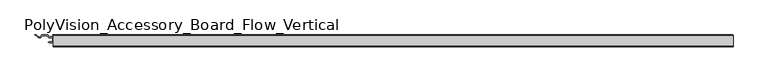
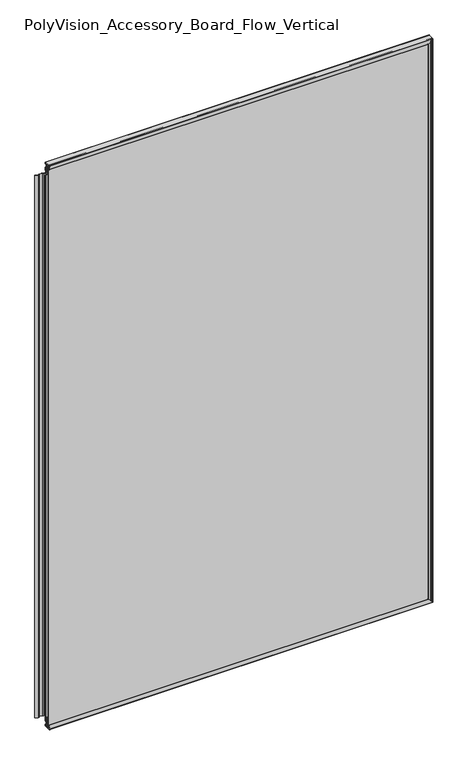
"""IFC4 building model written with IfcOpenShell, lengths in millimetres: furniture geometry, PolyVision_Accessory_Board_Flow_Vertical : 47W x 72H (1185 W x 1830 H)."""

from ifc_helpers import new_model, si_unit, point, frame, frame_2d, origin, place, context, project, spatial, polyline, circle_curve, ellipse_curve, trimmed, segment, composite_curve, outline, extrude, source, transform, mapped, element, save
from ifc_brep_helpers import plane_surface, cylinder_surface, revolved_surface, advanced_brep


def polyvision_accessory_board_flow_vertical_d371d4c1(model_context):
    return source(origin(), model_context, "Body", "SolidModel", [
        extrude(outline(polyline([(-2.1773004, 1827.6977202), (-2.1773004, 1826.8340763), (11.9065147, 1826.8340763), (11.9065147, 1824.149308), (7.6861579, 1824.149308), (7.6861579, 1817.1597246), (11.9065147, 1814.0934559), (11.9065147, 1804.1500962), (8.0075268, 1801.3173157), (7.7813476, 1800.4732034), (9.5131033, 1798.0), (7.5873908, 1798.0), (6.1707503, 1800.0231723), (6.1707503, 1801.7730492), (10.4011044, 1804.8465813), (10.4011044, 1813.2889188), (6.1707503, 1816.3624509), (6.1707503, 1823.2252503), (5.2024973, 1823.2252503), (4.2308366, 1824.3425727), (3.1736041, 1823.2853402), (2.1319224, 1824.3270218), (1.2210895, 1823.2415334), (0.4403969, 1824.2407744), (-0.5343781, 1823.2659994), (-1.3255269, 1823.2659994), (-1.3255269, 1824.7318758), (-2.1773004, 1824.7318758), (-2.1773004, 1823.8660166), (-5.4323759, 1824.6775981), (-5.4323759, 1826.8964971), (-2.1773004, 1827.6977202)])), frame((-587.0671964, 0.0, 0.0), z_axis=(1.0, 0.0, 0.0), x_axis=(0.0, 1.0, 0.0)), (0.0, 0.0, 1.0), 1174.1343929),
        extrude(outline(polyline([(-587.7413843, 0.0476856), (-587.7413843, 6.7743691), (-595.1878129, 6.7743691), (-597.7413843, 10.3493691), (-606.1415584, 10.3493691), (-608.7389479, 6.7743691), (-611.9925808, 6.7743691), (-618.9777191, 11.8493691), (-616.3960682, 11.8493691), (-610.1907804, 7.3409636), (-606.8911765, 11.8824787), (-596.8911765, 11.8824787), (-594.3371154, 8.3067932), (-587.741586, 8.3067932), (-587.741586, 11.8421507), (-586.3411827, 11.8421507), (-586.3411827, 8.3067932), (-579.7456533, 8.3067932), (-577.1915922, 11.8824787), (-567.1915922, 11.8824787), (-563.8919883, 7.3409636), (-557.6867004, 11.8493691), (-555.1050496, 11.8493691), (-562.0901879, 6.7743691), (-565.3438207, 6.7743691), (-567.9412103, 10.3493691), (-576.3413843, 10.3493691), (-578.8949558, 6.7743691), (-586.3413843, 6.7743691), (-586.3413843, 0.0476856), (-579.6671757, 0.0476856), (-578.6671757, -0.9523144), (-579.6671757, -1.9523144), (-594.4155929, -1.9523144), (-595.4155929, -0.9523144), (-594.4155929, 0.0476856), (-587.7413843, 0.0476856)])), frame((0.0, 0.0, 39.0), z_axis=(0.0, 0.0, 1.0), x_axis=(1.0, 0.0, 0.0)), (0.0, 0.0, 1.0), 1759.0),
        advanced_brep(
        [(-587.0671964, -8.6715851, 1.5039281), (-587.0671964, -7.0765247, 14.5698812), (-587.0671964, -6.4849935, 14.4886076), (-587.0671964, -6.7536539, 7.4189873), (-587.0671964, -6.2540145, 6.9), (-587.0671964, -1.2728233, 6.9), (-587.0671964, -1.2728233, 5.9924724), (-587.0671964, -3.0119913, 6.3098412), (-587.0671964, -5.2722627, 6.3098412), (-587.0671964, -6.5482658, 5.9875), (-587.0671964, -6.5482658, 3.45625), (-587.0671964, -4.1898472, 2.8604713), (-587.0671964, -3.6232202, 3.512301), (-587.0671964, -2.5584614, 2.9073862), (-587.0671964, -1.9673188, 3.4985288), (-587.0671964, -1.2361675, 3.0), (-587.0671964, 1.7766235, 3.0), (-587.0671964, 3.5266235, 3.7), (-587.0671964, 11.3266235, 3.7), (-587.0671964, 11.8266235, 3.2), (-587.0671964, 11.8266235, 1.5), (-587.0671964, 11.3266235, 1.0), (-587.0671964, -8.1716005, 1.0), (-587.0671964, -8.6715851, 1829.4960719), (-587.0671964, -8.1716005, 1830.0), (-587.0671964, 11.3266235, 1830.0), (-587.0671964, 11.8266235, 1829.5), (-587.0671964, 11.8266235, 1827.8), (-587.0671964, 11.3266235, 1827.3), (-587.0671964, 3.5266235, 1827.3), (-587.0671964, 1.7766235, 1828.0), (-587.0671964, -1.2361675, 1828.0), (-587.0671964, -1.9673188, 1827.5014712), (-587.0671964, -2.5584614, 1828.0926138), (-587.0671964, -3.6232202, 1827.487699), (-587.0671964, -4.1898472, 1828.1395287), (-587.0671964, -6.5482658, 1827.54375), (-587.0671964, -6.5482658, 1825.0125), (-587.0671964, -5.2722627, 1824.6901588), (-587.0671964, -3.0119913, 1824.6901588), (-587.0671964, -1.2728233, 1825.0075276), (-587.0671964, -1.2728233, 1824.1), (-587.0671964, -6.2540145, 1824.1), (-587.0671964, -6.7536539, 1823.5810127), (-587.0671964, -6.4849935, 1816.5113924), (-587.0671964, -7.0765247, 1816.4301188), (591.9960719, -8.6715851, 1829.4960719), (592.5, -8.1716005, 1830.0), (592.5, 11.3266235, 1830.0), (592.0, 11.8266235, 1829.5), (590.3, 11.8266235, 1827.8), (589.8, 11.3266235, 1827.3), (589.8, 3.5266235, 1827.3), (590.5, 1.7766235, 1828.0), (590.5, -1.2361675, 1828.0), (590.0014712, -1.9673188, 1827.5014712), (590.5926138, -2.5584614, 1828.0926138), (589.987699, -3.6232202, 1827.487699), (590.6395287, -4.1898472, 1828.1395287), (590.04375, -6.5482658, 1827.54375), (587.5125, -6.5482658, 1825.0125), (587.1901588, -5.2722627, 1824.6901588), (587.1901588, -3.0119913, 1824.6901588), (587.5075276, -1.2728233, 1825.0075276), (586.6, -1.2728233, 1824.1), (586.6, -6.2540145, 1824.1), (586.0810127, -6.7536539, 1823.5810127), (579.0113924, -6.4849935, 1816.5113924), (578.9301188, -7.0765247, 1816.4301188), (592.5, -8.1716005, 1.0), (591.9960719, -8.6715851, 1.5039281), (592.5, 11.3266235, 1.0), (592.0, 11.8266235, 1.5), (590.3, 11.8266235, 3.2), (589.8, 11.3266235, 3.7), (589.8, 3.5266235, 3.7), (590.5, 1.7766235, 3.0), (590.5, -1.2361675, 3.0), (590.0014712, -1.9673188, 3.4985288), (590.5926138, -2.5584614, 2.9073862), (589.987699, -3.6232202, 3.512301), (590.6395287, -4.1898472, 2.8604713), (590.04375, -6.5482658, 3.45625), (587.5125, -6.5482658, 5.9875), (587.1901588, -5.2722627, 6.3098412), (587.1901588, -3.0119913, 6.3098412), (587.5075276, -1.2728233, 5.9924724), (586.6, -1.2728233, 6.9), (586.6, -6.2540145, 6.9), (586.0810127, -6.7536539, 7.4189873), (579.0113924, -6.4849935, 14.4886076), (578.9301188, -7.0765247, 14.5698812)],
        [
            (0, 1, circle_curve(frame((-587.0671964, 49.3766235, 1.0478783), z_axis=(-1.0, 0.0, 0.0), x_axis=(0.0, 0.0, 1.0)), 58.05)),
            (1, 2, circle_curve(frame((-587.0671964, -6.7847771, 14.5), z_axis=(-1.0, 0.0, 0.0), x_axis=(0.0, 0.0, 1.0)), 0.3)),
            (2, 3),
            (3, 4, circle_curve(frame((-587.0671964, -6.2540145, 7.4), z_axis=(1.0, 0.0, 0.0), x_axis=(0.0, 0.0, 1.0)), 0.5)),
            (4, 5),
            (5, 6),
            (6, 7),
            (7, 8),
            (8, 9),
            (9, 10),
            (10, 11),
            (11, 12),
            (12, 13),
            (13, 14),
            (14, 15, circle_curve(frame((-587.0671964, -2.1069461, 2.5083247), z_axis=(-1.0, 0.0, 0.0), x_axis=(0.0, 0.0, 1.0)), 1.0)),
            (15, 16),
            (16, 17),
            (17, 18),
            (18, 19, circle_curve(frame((-587.0671964, 11.3266235, 3.2), z_axis=(-1.0, 0.0, 0.0), x_axis=(0.0, 0.0, 1.0)), 0.5)),
            (19, 20),
            (20, 21, circle_curve(frame((-587.0671964, 11.3266235, 1.5), z_axis=(-1.0, 0.0, 0.0), x_axis=(0.0, 0.0, 1.0)), 0.5)),
            (21, 22),
            (22, 0, circle_curve(frame((-587.0671964, -8.1716005, 1.5), z_axis=(-1.0, 0.0, 0.0), x_axis=(0.0, 0.0, 1.0)), 0.5)),
            (23, 24, circle_curve(frame((-587.0671964, -8.1716005, 1829.5), z_axis=(-1.0, 0.0, 0.0), x_axis=(0.0, 0.0, -1.0)), 0.5)),
            (24, 25),
            (25, 26, circle_curve(frame((-587.0671964, 11.3266235, 1829.5), z_axis=(-1.0, 0.0, 0.0), x_axis=(0.0, 0.0, -1.0)), 0.5)),
            (26, 27),
            (27, 28, circle_curve(frame((-587.0671964, 11.3266235, 1827.8), z_axis=(-1.0, 0.0, 0.0), x_axis=(0.0, 0.0, -1.0)), 0.5)),
            (28, 29),
            (29, 30),
            (30, 31),
            (31, 32, circle_curve(frame((-587.0671964, -2.1069461, 1828.4916753), z_axis=(-1.0, 0.0, 0.0), x_axis=(0.0, 0.0, -1.0)), 1.0)),
            (32, 33),
            (33, 34),
            (34, 35),
            (35, 36),
            (36, 37),
            (37, 38),
            (38, 39),
            (39, 40),
            (40, 41),
            (41, 42),
            (42, 43, circle_curve(frame((-587.0671964, -6.2540145, 1823.6), z_axis=(1.0, 0.0, 0.0), x_axis=(0.0, 0.0, -1.0)), 0.5)),
            (43, 44),
            (44, 45, circle_curve(frame((-587.0671964, -6.7847771, 1816.5), z_axis=(-1.0, 0.0, 0.0), x_axis=(0.0, 0.0, -1.0)), 0.3)),
            (45, 23, circle_curve(frame((-587.0671964, 49.3766235, 1829.9521217), z_axis=(-1.0, 0.0, 0.0), x_axis=(0.0, 0.0, -1.0)), 58.05)),
            (46, 47, ellipse_curve(frame((592.0, -8.1716005, 1829.5), z_axis=(-0.7071067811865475, 0.0, 0.7071067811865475), x_axis=(0.7071067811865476, 0.0, 0.7071067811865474)), 0.7071068, 0.5)),
            (47, 24),
            (23, 46),
            (47, 48),
            (48, 25),
            (48, 49, ellipse_curve(frame((592.0, 11.3266235, 1829.5), z_axis=(-0.7071067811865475, 0.0, 0.7071067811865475), x_axis=(0.7071067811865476, 0.0, 0.7071067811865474)), 0.7071068, 0.5)),
            (49, 26),
            (50, 51, ellipse_curve(frame((590.3, 11.3266235, 1827.8), z_axis=(-0.7071067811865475, 0.0, 0.7071067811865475), x_axis=(0.7071067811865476, 0.0, 0.7071067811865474)), 0.7071068, 0.5)),
            (51, 28),
            (27, 50),
            (51, 52),
            (52, 29),
            (52, 53),
            (53, 30),
            (53, 54),
            (54, 31),
            (54, 55, ellipse_curve(frame((590.9916753, -2.1069461, 1828.4916753), z_axis=(-0.7071067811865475, 0.0, 0.7071067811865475), x_axis=(0.7071067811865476, 0.0, 0.7071067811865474)), 1.4142136, 1.0)),
            (55, 32),
            (55, 56),
            (56, 33),
            (56, 57),
            (57, 34),
            (57, 58),
            (58, 35),
            (59, 36),
            (58, 59),
            (60, 61),
            (61, 38),
            (37, 60),
            (61, 62),
            (62, 39),
            (62, 63),
            (63, 40),
            (64, 65),
            (65, 42),
            (41, 64),
            (65, 66, ellipse_curve(frame((586.1, -6.2540145, 1823.6), z_axis=(0.7071067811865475, 0.0, -0.7071067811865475), x_axis=(-0.7071067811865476, 0.0, -0.7071067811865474)), 0.7071068, 0.5)),
            (66, 43),
            (66, 67),
            (67, 44),
            (67, 68, ellipse_curve(frame((579.0, -6.7847771, 1816.5), z_axis=(-0.7071067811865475, 0.0, 0.7071067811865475), x_axis=(0.7071067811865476, 0.0, 0.7071067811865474)), 0.4242641, 0.3)),
            (68, 45),
            (68, 46, ellipse_curve(frame((592.4521217, 49.3766235, 1829.9521217), z_axis=(-0.7071067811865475, 0.0, 0.7071067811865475), x_axis=(0.7071067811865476, 0.0, 0.7071067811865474)), 82.0950973, 58.05)),
            (22, 69),
            (69, 70, ellipse_curve(frame((592.0, -8.1716005, 1.5), z_axis=(-0.7071067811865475, 0.0, -0.7071067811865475), x_axis=(-0.7071067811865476, 0.0, 0.7071067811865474)), 0.7071068, 0.5)),
            (70, 0),
            (21, 71),
            (71, 69),
            (20, 72),
            (72, 71, ellipse_curve(frame((592.0, 11.3266235, 1.5), z_axis=(-0.7071067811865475, 0.0, -0.7071067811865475), x_axis=(-0.7071067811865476, 0.0, 0.7071067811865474)), 0.7071068, 0.5)),
            (19, 73),
            (73, 50),
            (49, 72),
            (18, 74),
            (74, 73, ellipse_curve(frame((590.3, 11.3266235, 3.2), z_axis=(-0.7071067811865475, 0.0, -0.7071067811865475), x_axis=(-0.7071067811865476, 0.0, 0.7071067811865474)), 0.7071068, 0.5)),
            (17, 75),
            (75, 74),
            (16, 76),
            (76, 75),
            (15, 77),
            (77, 76),
            (14, 78),
            (78, 77, ellipse_curve(frame((590.9916753, -2.1069461, 2.5083247), z_axis=(-0.7071067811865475, 0.0, -0.7071067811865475), x_axis=(-0.7071067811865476, 0.0, 0.7071067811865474)), 1.4142136, 1.0)),
            (13, 79),
            (79, 78),
            (12, 80),
            (80, 79),
            (11, 81),
            (81, 80),
            (10, 82),
            (82, 81),
            (9, 83),
            (83, 60),
            (59, 82),
            (8, 84),
            (84, 83),
            (7, 85),
            (85, 84),
            (6, 86),
            (86, 85),
            (5, 87),
            (87, 64),
            (63, 86),
            (4, 88),
            (88, 87),
            (3, 89),
            (89, 88, ellipse_curve(frame((586.1, -6.2540145, 7.4), z_axis=(0.7071067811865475, 0.0, 0.7071067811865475), x_axis=(0.7071067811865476, 0.0, -0.7071067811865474)), 0.7071068, 0.5)),
            (2, 90),
            (90, 89),
            (1, 91),
            (91, 90, ellipse_curve(frame((579.0, -6.7847771, 14.5), z_axis=(-0.7071067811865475, 0.0, -0.7071067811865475), x_axis=(-0.7071067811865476, 0.0, 0.7071067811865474)), 0.4242641, 0.3)),
            (70, 91, ellipse_curve(frame((592.4521217, 49.3766235, 1.0478783), z_axis=(-0.7071067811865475, 0.0, -0.7071067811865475), x_axis=(-0.7071067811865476, 0.0, 0.7071067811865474)), 82.0950973, 58.05)),
            (70, 46),
            (68, 91),
            (67, 90),
            (66, 89),
            (65, 88),
            (62, 85),
            (61, 84),
            (58, 81),
            (57, 80),
            (56, 79),
            (55, 78),
            (54, 77),
            (53, 76),
            (52, 75),
            (51, 74),
            (48, 71),
            (47, 69),
        ],
        [
            plane_surface(frame((-587.0671964, -3.3270175, 1.0), z_axis=(-1.0, 0.0, 0.0), x_axis=(0.0, -1.0, 0.0))),
            plane_surface(frame((-587.0671964, -3.3270175, 1830.0), z_axis=(-1.0, 0.0, 0.0), x_axis=(0.0, -1.0, 0.0))),
            cylinder_surface(frame((592.5, -8.1716005, 1829.5), z_axis=(1.0, 0.0, 0.0), x_axis=(0.0, 0.0, -1.0)), 0.5),
            plane_surface(frame((592.5, 11.3266235, 1830.0), z_axis=(0.0, 0.0, 1.0), x_axis=(-1.0, 0.0, 0.0))),
            cylinder_surface(frame((592.5, 11.3266235, 1829.5), z_axis=(1.0, 0.0, 0.0), x_axis=(0.0, 0.0, -1.0)), 0.5),
            cylinder_surface(frame((592.5, 11.3266235, 1827.8), z_axis=(1.0, 0.0, 0.0), x_axis=(0.0, 0.0, -1.0)), 0.5),
            plane_surface(frame((589.8, 3.5266235, 1827.3), z_axis=(0.0, 0.0, -1.0), x_axis=(-1.0, 0.0, 0.0))),
            plane_surface(frame((590.5, 1.7766235, 1828.0), z_axis=(0.0, -0.3713906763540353, -0.9284766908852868), x_axis=(-1.0, 0.0, 0.0))),
            plane_surface(frame((590.5, -1.2361675, 1828.0), z_axis=(0.0, 0.0, -1.0), x_axis=(-1.0, 0.0, 0.0))),
            cylinder_surface(frame((592.5, -2.1069461, 1828.4916753), z_axis=(1.0, 0.0, 0.0), x_axis=(0.0, 0.0, -1.0)), 1.0),
            plane_surface(frame((590.5926138, -2.5584614, 1828.0926138), z_axis=(0.0, -0.7071067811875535, -0.7071067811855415), x_axis=(-1.0, 0.0, 0.0))),
            plane_surface(frame((589.987699, -3.6232202, 1827.487699), z_axis=(0.0, 0.4939712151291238, -0.8694782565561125), x_axis=(-1.0, 0.0, 0.0))),
            plane_surface(frame((590.6395287, -4.1898472, 1828.1395287), z_axis=(0.0, -0.7547095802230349, -0.656059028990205), x_axis=(-1.0, 0.0, 0.0))),
            plane_surface(frame((590.3487543, -5.3408915, 1827.8487543), z_axis=(0.0, 0.2449237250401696, -0.969542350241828), x_axis=(-1.0, 0.0, 0.0))),
            plane_surface(frame((587.1901588, -5.2722627, 1824.6901588), z_axis=(0.0, 0.244923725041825, 0.9695423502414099), x_axis=(-1.0, 0.0, 0.0))),
            plane_surface(frame((587.1901588, -3.0119913, 1824.6901588), z_axis=(0.0, 0.0, 1.0), x_axis=(-1.0, 0.0, 0.0))),
            plane_surface(frame((587.5075276, -1.2728233, 1825.0075276), z_axis=(0.0, -0.17951862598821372, 0.9837545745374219), x_axis=(-1.0, 0.0, 0.0))),
            plane_surface(frame((586.6, -6.2540145, 1824.1), z_axis=(0.0, 0.0, -1.0), x_axis=(-1.0, 0.0, 0.0))),
            revolved_surface(polyline([(-587.0671963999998, -6.2540145, 1823.1), (586.6000000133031, -6.2540145, 1823.1)]), (592.5, -6.2540145, 1823.6), (-1.0, 0.0, 0.0)),
            plane_surface(frame((579.0113924, -6.4849935, 1816.5113924), z_axis=(0.0, 0.9992787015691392, 0.03797468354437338), x_axis=(-1.0, 0.0, 0.0))),
            cylinder_surface(frame((592.5, -6.7847771, 1816.5), z_axis=(1.0, 0.0, 0.0), x_axis=(0.0, 0.0, -1.0)), 0.3),
            cylinder_surface(frame((592.5, 49.3766235, 1829.9521217), z_axis=(1.0, 0.0, 0.0), x_axis=(0.0, 0.0, -1.0)), 58.05),
            cylinder_surface(frame((-587.0671964, -8.1716005, 1.5), z_axis=(-1.0, 0.0, 0.0), x_axis=(0.0, 0.0, 1.0)), 0.5),
            plane_surface(frame((-587.0671964, 11.3266235, 1.0), z_axis=(0.0, 0.0, -1.0), x_axis=(1.0, 0.0, 0.0))),
            cylinder_surface(frame((-587.0671964, 11.3266235, 1.5), z_axis=(-1.0, 0.0, 0.0), x_axis=(0.0, 0.0, 1.0)), 0.5),
            plane_surface(frame((-587.0671964, 11.8266235, 3.2), z_axis=(0.0, 1.0, 0.0), x_axis=(1.0, 0.0, 0.0))),
            cylinder_surface(frame((-587.0671964, 11.3266235, 3.2), z_axis=(-1.0, 0.0, 0.0), x_axis=(0.0, 0.0, 1.0)), 0.5),
            plane_surface(frame((-587.0671964, 3.5266235, 3.7), z_axis=(0.0, 0.0, 1.0), x_axis=(1.0, 0.0, 0.0))),
            plane_surface(frame((-587.0671964, 1.7766235, 3.0), z_axis=(0.0, -0.37139067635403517, 0.9284766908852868), x_axis=(1.0, 0.0, 0.0))),
            plane_surface(frame((-587.0671964, -1.2361675, 3.0), z_axis=(0.0, 0.0, 1.0), x_axis=(1.0, 0.0, 0.0))),
            cylinder_surface(frame((-587.0671964, -2.1069461, 2.5083247), z_axis=(-1.0, 0.0, 0.0), x_axis=(0.0, 0.0, 1.0)), 1.0),
            plane_surface(frame((-587.0671964, -2.5584614, 2.9073862), z_axis=(0.0, -0.7071067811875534, 0.7071067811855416), x_axis=(1.0, 0.0, 0.0))),
            plane_surface(frame((-587.0671964, -3.6232202, 3.512301), z_axis=(0.0, 0.4939712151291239, 0.8694782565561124), x_axis=(1.0, 0.0, 0.0))),
            plane_surface(frame((-587.0671964, -4.1898472, 2.8604713), z_axis=(0.0, -0.7547095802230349, 0.656059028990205), x_axis=(1.0, 0.0, 0.0))),
            plane_surface(frame((-587.0671964, -5.3408915, 3.1512457), z_axis=(0.0, 0.2449237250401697, 0.969542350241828), x_axis=(1.0, 0.0, 0.0))),
            plane_surface(frame((-587.0671964, -6.5482658, 5.9875), z_axis=(0.0, 1.0, 0.0), x_axis=(1.0, 0.0, 0.0))),
            plane_surface(frame((-587.0671964, -5.2722627, 6.3098412), z_axis=(0.0, 0.24492372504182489, -0.9695423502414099), x_axis=(1.0, 0.0, 0.0))),
            plane_surface(frame((-587.0671964, -3.0119913, 6.3098412), z_axis=(0.0, 0.0, -1.0), x_axis=(1.0, 0.0, 0.0))),
            plane_surface(frame((-587.0671964, -1.2728233, 5.9924724), z_axis=(0.0, -0.17951862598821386, -0.9837545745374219), x_axis=(1.0, 0.0, 0.0))),
            plane_surface(frame((-587.0671964, -1.2728233, 6.9), z_axis=(0.0, 1.0, 0.0), x_axis=(1.0, 0.0, 0.0))),
            plane_surface(frame((-587.0671964, -6.2540145, 6.9), z_axis=(0.0, 0.0, 1.0), x_axis=(1.0, 0.0, 0.0))),
            revolved_surface(polyline([(586.6000000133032, -6.2540145, 7.9), (-587.0671964, -6.2540145, 7.9)]), (-587.0671964, -6.2540145, 7.4), (1.0, 0.0, 0.0)),
            plane_surface(frame((-587.0671964, -6.4849935, 14.4886076), z_axis=(0.0, 0.9992787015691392, -0.03797468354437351), x_axis=(1.0, 0.0, 0.0))),
            cylinder_surface(frame((-587.0671964, -6.7847771, 14.5), z_axis=(-1.0, 0.0, 0.0), x_axis=(0.0, 0.0, 1.0)), 0.3),
            cylinder_surface(frame((-587.0671964, 49.3766235, 1.0478783), z_axis=(-1.0, 0.0, 0.0), x_axis=(0.0, 0.0, 1.0)), 58.05),
            cylinder_surface(frame((592.4521217, 49.3766235, 1.0), z_axis=(0.0, 0.0, -1.0), x_axis=(-1.0, 0.0, 0.0)), 58.05),
            cylinder_surface(frame((579.0, -6.7847771, 1.0), z_axis=(0.0, 0.0, -1.0), x_axis=(-1.0, 0.0, 0.0)), 0.3),
            plane_surface(frame((579.0113924, -6.4849935, 14.4886076), z_axis=(0.03797468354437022, 0.9992787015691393, 0.0), x_axis=(0.0, 0.0, 1.0))),
            revolved_surface(polyline([(585.6, -6.2540145, 1824.100000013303), (585.6, -6.2540145, 6.899999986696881)]), (586.1, -6.2540145, 1.0), (0.0, 0.0, 1.0)),
            plane_surface(frame((586.6, -6.2540145, 6.9), z_axis=(-1.0, 0.0, 0.0), x_axis=(0.0, 0.0, 1.0))),
            plane_surface(frame((587.5075276, -1.2728233, 5.9924724), z_axis=(0.9837545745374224, -0.1795186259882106, 0.0), x_axis=(0.0, 0.0, 1.0))),
            plane_surface(frame((587.1901588, -3.0119913, 6.3098412), z_axis=(1.0, 0.0, 0.0), x_axis=(0.0, 0.0, 1.0))),
            plane_surface(frame((587.1901588, -5.2722627, 6.3098412), z_axis=(0.9695423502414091, 0.24492372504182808, 0.0), x_axis=(0.0, 0.0, 1.0))),
            plane_surface(frame((590.3487543, -5.3408915, 3.1512457), z_axis=(-0.9695423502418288, 0.24492372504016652, 0.0), x_axis=(0.0, 0.0, 1.0))),
            plane_surface(frame((590.6395287, -4.1898472, 2.8604713), z_axis=(-0.6560590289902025, -0.754709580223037, 0.0), x_axis=(0.0, 0.0, 1.0))),
            plane_surface(frame((589.987699, -3.6232202, 3.512301), z_axis=(-0.8694782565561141, 0.493971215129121, 0.0), x_axis=(0.0, 0.0, 1.0))),
            plane_surface(frame((590.5926138, -2.5584614, 2.9073862), z_axis=(-0.7071067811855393, -0.7071067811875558, 0.0), x_axis=(0.0, 0.0, 1.0))),
            cylinder_surface(frame((590.9916753, -2.1069461, 1.0), z_axis=(0.0, 0.0, -1.0), x_axis=(-1.0, 0.0, 0.0)), 1.0),
            plane_surface(frame((590.5, -1.2361675, 3.0), z_axis=(-1.0, 0.0, 0.0), x_axis=(0.0, 0.0, 1.0))),
            plane_surface(frame((590.5, 1.7766235, 3.0), z_axis=(-0.9284766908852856, -0.3713906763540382, 0.0), x_axis=(0.0, 0.0, 1.0))),
            plane_surface(frame((589.8, 3.5266235, 3.7), z_axis=(-1.0, 0.0, 0.0), x_axis=(0.0, 0.0, 1.0))),
            cylinder_surface(frame((590.3, 11.3266235, 1.0), z_axis=(0.0, 0.0, -1.0), x_axis=(-1.0, 0.0, 0.0)), 0.5),
            cylinder_surface(frame((592.0, 11.3266235, 1.0), z_axis=(0.0, 0.0, -1.0), x_axis=(-1.0, 0.0, 0.0)), 0.5),
            plane_surface(frame((592.5, 11.3266235, 1.0), z_axis=(1.0, 0.0, 0.0), x_axis=(0.0, 0.0, 1.0))),
            cylinder_surface(frame((592.0, -8.1716005, 1.0), z_axis=(0.0, 0.0, -1.0), x_axis=(-1.0, 0.0, 0.0)), 0.5),
        ],
        [
            (0, [[1, 2, 3, 4, 5, 6, 7, 8, 9, 10, 11, 12, 13, 14, 15, 16, 17, 18, 19, 20, 21, 22, 23]]),
            (1, [[24, 25, 26, 27, 28, 29, 30, 31, 32, 33, 34, 35, 36, 37, 38, 39, 40, 41, 42, 43, 44, 45, 46]]),
            (2, [[47, 48, -24, 49]]),
            (3, [[50, 51, -25, -48]]),
            (4, [[52, 53, -26, -51]]),
            (5, [[54, 55, -28, 56]]),
            (6, [[57, 58, -29, -55]]),
            (7, [[59, 60, -30, -58]]),
            (8, [[61, 62, -31, -60]]),
            (9, [[63, 64, -32, -62]]),
            (10, [[65, 66, -33, -64]]),
            (11, [[67, 68, -34, -66]]),
            (12, [[69, 70, -35, -68]]),
            (13, [[71, -36, -70, 72]]),
            (14, [[73, 74, -38, 75]]),
            (15, [[76, 77, -39, -74]]),
            (16, [[78, 79, -40, -77]]),
            (17, [[80, 81, -42, 82]]),
            (18, [[83, 84, -43, -81]]),
            (19, [[85, 86, -44, -84]]),
            (20, [[87, 88, -45, -86]]),
            (21, [[89, -49, -46, -88]]),
            (22, [[-23, 90, 91, 92]]),
            (23, [[-22, 93, 94, -90]]),
            (24, [[-21, 95, 96, -93]]),
            (25, [[-20, 97, 98, -56, -27, -53, 99, -95]]),
            (26, [[-19, 100, 101, -97]]),
            (27, [[-18, 102, 103, -100]]),
            (28, [[-17, 104, 105, -102]]),
            (29, [[-16, 106, 107, -104]]),
            (30, [[-15, 108, 109, -106]]),
            (31, [[-14, 110, 111, -108]]),
            (32, [[-13, 112, 113, -110]]),
            (33, [[-12, 114, 115, -112]]),
            (34, [[116, 117, -114, -11]]),
            (35, [[-10, 118, 119, -75, -37, -71, 120, -116]]),
            (36, [[-9, 121, 122, -118]]),
            (37, [[-8, 123, 124, -121]]),
            (38, [[-7, 125, 126, -123]]),
            (39, [[-6, 127, 128, -82, -41, -79, 129, -125]]),
            (40, [[-5, 130, 131, -127]]),
            (41, [[-4, 132, 133, -130]]),
            (42, [[-3, 134, 135, -132]]),
            (43, [[-2, 136, 137, -134]]),
            (44, [[-1, -92, 138, -136]]),
            (45, [[-138, 139, -89, 140]]),
            (46, [[-137, -140, -87, 141]]),
            (47, [[-135, -141, -85, 142]]),
            (48, [[-133, -142, -83, 143]]),
            (49, [[-131, -143, -80, -128]]),
            (50, [[-126, -129, -78, 144]]),
            (51, [[-124, -144, -76, 145]]),
            (52, [[-122, -145, -73, -119]]),
            (53, [[-117, -120, -72, 146]]),
            (54, [[-115, -146, -69, 147]]),
            (55, [[-113, -147, -67, 148]]),
            (56, [[-111, -148, -65, 149]]),
            (57, [[-109, -149, -63, 150]]),
            (58, [[-107, -150, -61, 151]]),
            (59, [[-105, -151, -59, 152]]),
            (60, [[-103, -152, -57, 153]]),
            (61, [[-101, -153, -54, -98]]),
            (62, [[-96, -99, -52, 154]]),
            (63, [[-94, -154, -50, 155]]),
            (64, [[-91, -155, -47, -139]]),
        ],
    ),
        extrude(outline(composite_curve([segment(polyline([(587.1, 11.9013244), (589.8, 11.9013244), (589.8, -1.6455195)]), True, "CONTINUOUS"), segment(trimmed(circle_curve(frame_2d((589.6394284, -2.1699579)), 0.5484695), [point((589.8, -1.6455195))], [point((590.1711928, -2.304291))], False, "CARTESIAN"), True, "CONTINUOUS"), segment(polyline([(590.1711928, -2.304291), (589.9420492, -3.2113669)]), True, "CONTINUOUS"), segment(trimmed(circle_curve(frame_2d((589.4794556, -3.7545459)), 0.7134678), [point((589.9420492, -3.2113669))], [point((590.1711928, -3.929291))], False, "CARTESIAN"), True, "CONTINUOUS"), segment(polyline([(590.1711928, -3.929291), (589.8, -5.3986756), (588.0042411, -5.3986756), (587.5072946, -3.9463196)]), True, "CONTINUOUS"), segment(trimmed(circle_curve(frame_2d((588.3554261, -3.6561181)), 0.8964062), [point((587.5072946, -3.9463196))], [point((587.6426522, -3.1125214))], False, "CARTESIAN"), True, "CONTINUOUS"), segment(polyline([(587.6426522, -3.1125214), (587.3738092, -2.3268115)]), True, "CONTINUOUS"), segment(trimmed(circle_curve(frame_2d((587.8571228, -2.1614381)), 0.5108233), [point((587.3738092, -2.3268115))], [point((587.6927651, -1.6777781))], False, "CARTESIAN"), True, "CONTINUOUS"), segment(polyline([(587.6927651, -1.6777781), (587.5273508, 0.3291062), (586.2, 1.2679911), (587.5038418, 2.1902472), (586.2, 3.2013244), (587.4895571, 4.2013244), (586.3161604, 5.1112467), (585.8739831, 6.2694723), (579.251323, 6.2694723), (576.3, 10.4013244), (567.8, 10.4013244), (564.7776266, 6.1700016), (562.944193, 6.1700016), (556.1267804, 11.0019991)]), True, "CONTINUOUS"), segment(trimmed(circle_curve(frame_2d((556.413169, 11.4060617)), 0.4952627), [point((556.1267804, 11.0019991))], [point((556.413169, 11.9013244))], False, "CARTESIAN"), True, "CONTINUOUS"), segment(polyline([(556.413169, 11.9013244), (557.7, 11.9013244), (563.8928443, 7.5120041), (567.0280732, 11.9013244), (577.0719268, 11.9013244), (580.0719268, 7.7013244), (587.1, 7.7013244), (587.1, 11.9013244)]), True, "CONTINUOUS")], self_intersect=False)), frame((0.0, 0.0, 39.0), z_axis=(0.0, 0.0, 1.0), x_axis=(1.0, 0.0, 0.0)), (0.0, 0.0, 1.0), 1759.0),
        extrude(outline(polyline([(-2.1773004, 3.0522798), (-5.4323759, 3.8535029), (-5.4323759, 6.0724019), (-2.1773004, 6.8839834), (-2.1773004, 6.0181242), (-1.3255269, 6.0181242), (-1.3255269, 7.4840006), (-0.5343781, 7.4840006), (0.4403969, 6.5092256), (1.2210895, 7.5084666), (2.1319224, 6.4229782), (3.1736041, 7.4646598), (4.2308366, 6.4074273), (5.2024973, 7.5247497), (6.1707503, 7.5247497), (6.1707503, 14.3875491), (10.4011044, 17.4610812), (10.4011044, 25.9034187), (6.1707503, 28.9769508), (6.1707503, 30.7268277), (11.9065147, 38.9183482), (11.9065147, 36.1681457), (7.7813476, 30.2767966), (8.0075268, 29.4326843), (11.9065147, 26.5999038), (11.9065147, 16.6565441), (7.6861579, 13.5902754), (7.6861579, 6.600692), (11.9065147, 6.600692), (11.9065147, 3.9159237), (-2.1773004, 3.9159237), (-2.1773004, 3.0522798)])), frame((-587.0671964, 0.0, 0.0), z_axis=(1.0, 0.0, 0.0), x_axis=(0.0, 1.0, 0.0)), (0.0, 0.0, 1.0), 1174.1343929),
        extrude(outline(polyline([(587.0671964, -6.2220176), (587.0671964, -7.0048301), (-587.0671964, -7.0048301), (-587.0671964, -6.2220176), (587.0671964, -6.2220176)])), frame((0.0, 0.0, 7.0), z_axis=(0.0, 0.0, 1.0), x_axis=(1.0, 0.0, 0.0)), (0.0, 0.0, 1.0), 1817.0),
        extrude(outline(polyline([(585.0671964, 5.9853098), (585.0671964, 5.2024973), (-585.0671964, 5.2024973), (-585.0671964, 5.9853098), (585.0671964, 5.9853098)])), frame((0.0, 0.0, 7.0), z_axis=(0.0, 0.0, 1.0), x_axis=(1.0, 0.0, 0.0)), (0.0, 0.0, 1.0), 1817.0),
        extrude(outline(polyline([(585.0671964, 5.2024973), (585.0671964, 0.2355242), (575.0671964, 0.2355242), (575.0671964, -2.1351563), (587.0671964, -2.1351563), (587.0671964, -5.7140707), (-587.0671964, -5.7140707), (-587.0671964, -2.1351563), (-575.0671964, -2.1351563), (-575.0671964, 0.2355242), (-585.0671964, 0.2355242), (-585.0671964, 5.2024973), (585.0671964, 5.2024973)])), frame((0.0, 0.0, 7.0), z_axis=(0.0, 0.0, 1.0), x_axis=(1.0, 0.0, 0.0)), (0.0, 0.0, 1.0), 1817.0),
    ])


if __name__ == "__main__":
    model = new_model("IFC4")
    model_context = context("Model", 3, world=origin())
    ifc_project = project(units=[si_unit("LENGTHUNIT", "METRE", prefix="MILLI")], contexts=[model_context])
    site = spatial("IfcSite", under=ifc_project)
    building = spatial("IfcBuilding", under=site)
    placement = place(None, origin())
    polyvision_accessory_board_flow_vertical_shape = polyvision_accessory_board_flow_vertical_d371d4c1(model_context)
    element("IfcFurniture", 1, ObjectType="PolyVision_Accessory_Board_Flow_Vertical : 47W x 72H (1185 W x 1830 H)", at=placement, inside=building, context=model_context, shape_type="MappedRepresentation", body=[
        mapped(polyvision_accessory_board_flow_vertical_shape, transform((0.0, 0.0, 0.0), x_axis=(1.0, 0.0, 0.0), y_axis=(0.0, 1.0, 0.0), z_axis=(0.0, 0.0, 1.0))),
    ])
    save(model, "model.ifc")
